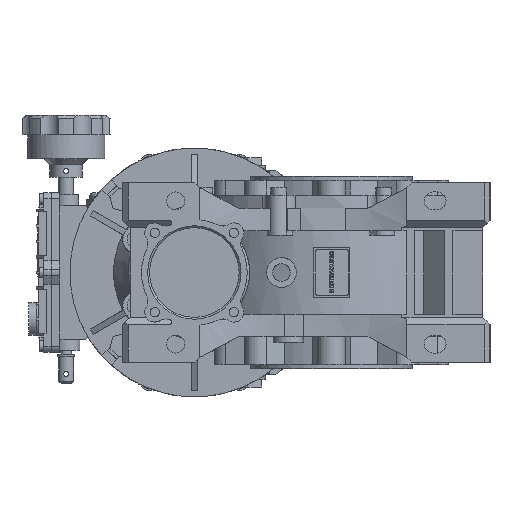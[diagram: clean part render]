
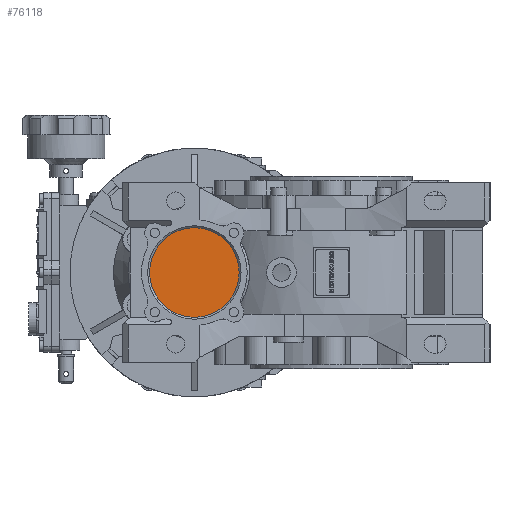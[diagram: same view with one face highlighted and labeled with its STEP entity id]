
A CAD part, left-side view. The second image highlights one B-rep face of the part: STEP entity #76118.
In plain terms, the highlighted planar face has unit normal (-1, 0, 0) as drawn and (1, 0, 0) by its records, which use the part's own axes.
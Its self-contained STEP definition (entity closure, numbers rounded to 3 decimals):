
#718=PLANE('',#81088);
#4028=CIRCLE('',#81089,36.);
#10066=ORIENTED_EDGE('',*,*,#32068,.T.);
#32068=EDGE_CURVE('',#43224,#43224,#4028,.T.);
#43224=VERTEX_POINT('',#115819);
#64774=EDGE_LOOP('',(#10066));
#69664=FACE_BOUND('',#64774,.T.);
#76118=ADVANCED_FACE('',(#69664),#718,.T.);
#81088=AXIS2_PLACEMENT_3D('',#115817,#91160,#91161);
#81089=AXIS2_PLACEMENT_3D('',#115818,#91162,#91163);
#91160=DIRECTION('',(1.,0.,0.));
#91161=DIRECTION('',(0.,0.,-1.));
#91162=DIRECTION('',(1.,0.,0.));
#91163=DIRECTION('',(0.,0.,-1.));
#115817=CARTESIAN_POINT('',(126.,110.,0.));
#115818=CARTESIAN_POINT('',(126.,110.,0.));
#115819=CARTESIAN_POINT('',(126.,110.,-36.));
